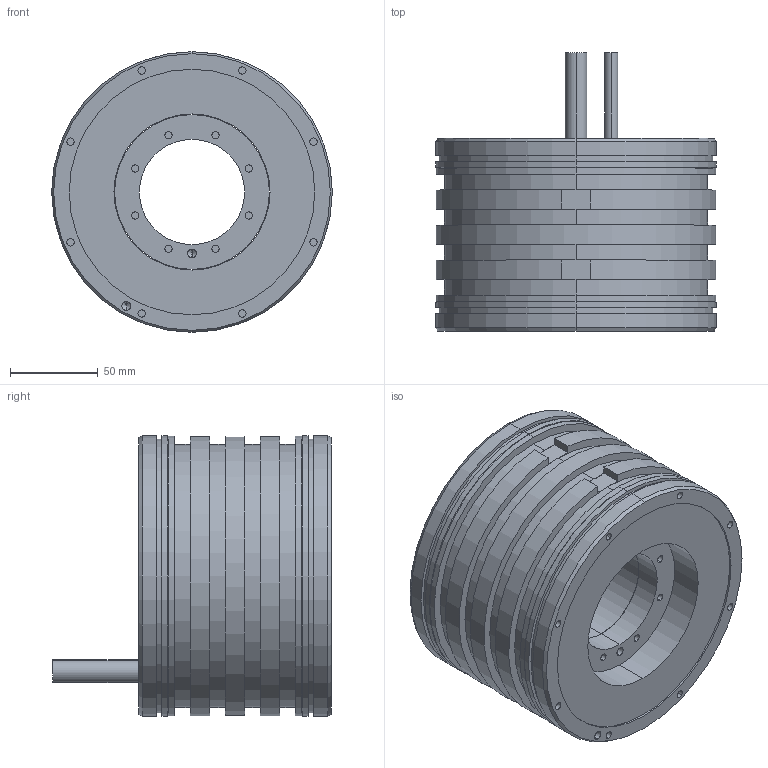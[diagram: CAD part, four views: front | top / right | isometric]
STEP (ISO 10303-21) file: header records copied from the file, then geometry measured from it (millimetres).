
FILE_DESCRIPTION (( 'STEP AP203' ), '1' );
FILE_NAME ('TM-2-17.STEP', '2020-10-20T05:31:46', ( '' ), ( '' ), 'SwSTEP 2.0', 'SolidWorks 2015', '' );
FILE_SCHEMA (( 'CONFIG_CONTROL_DESIGN' ));
Length unit declared in the file: millimetre
Products named in the file (3): TM-2-1X_rotor_TM-2-17_rotor; TM-2-17; TM-2-1X_stator_TM-2-17_stator
Assembly tree (2 placements, depth 2):
  TM-2-17
    TM-2-1X_stator_TM-2-17_stator
    TM-2-1X_rotor_TM-2-17_rotor
Bounding box: 160 x 159 x 160 mm (x, y, z)
Volume: 1640311.6 mm3; surface area: 183376.2 mm2
Topology: 2 solids, 2 shells, 198 faces, 418 edges, 264 vertices
Faces by surface type: cylinder 119, plane 63, cone 16
Entity records: 5645 total; most frequent: DIRECTION 1058, CARTESIAN_POINT 877, ORIENTED_EDGE 820, AXIS2_PLACEMENT_3D 445, EDGE_CURVE 410, VERTEX_POINT 264, EDGE_LOOP 250, CIRCLE 242
